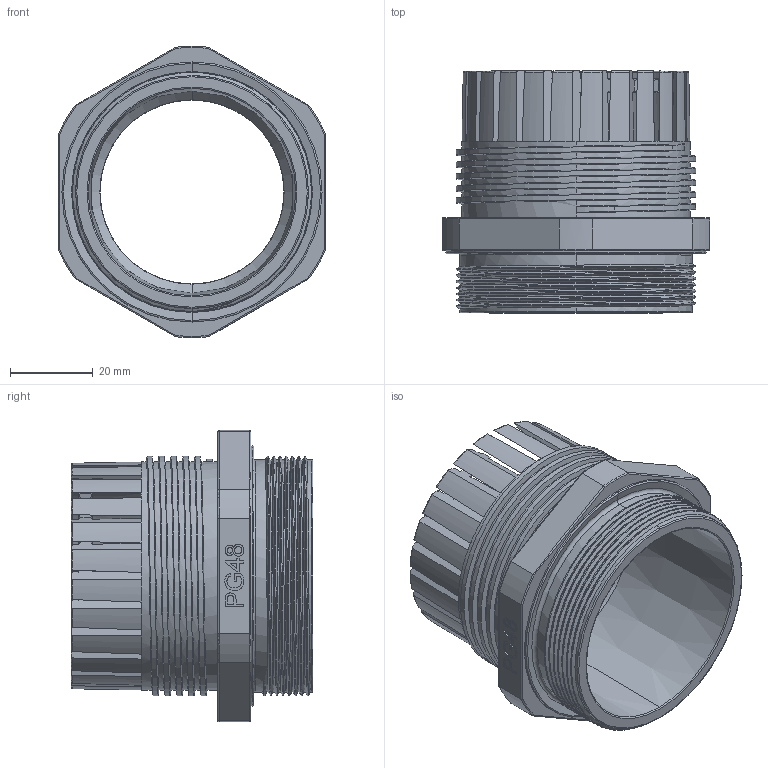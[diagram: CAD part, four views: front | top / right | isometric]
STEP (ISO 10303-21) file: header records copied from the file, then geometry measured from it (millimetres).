
FILE_DESCRIPTION (( 'STEP AP214' ), '1' );
FILE_NAME ('plc-pg-48-00.00.001 昢膼瘔 (PG48) #base (PG48)#.STEP', '2024-04-24T11:20:43', ( '' ), ( '' ), 'SwSTEP 2.0', 'SolidWorks 2021', '' );
FILE_SCHEMA (( 'AUTOMOTIVE_DESIGN' ));
Length unit declared in the file: millimetre
Products named in the file (1): plc-pg-48-00.00.001 昢膼瘔 (PG48) #base (PG48)#
Bounding box: 64.7 x 58.5 x 70.5 mm (x, y, z)
Volume: 38199.8 mm3; surface area: 28274.8 mm2
Topology: 1 solids, 1 shells, 481 faces, 1293 edges, 828 vertices
Faces by surface type: plane 180, cone 111, cylinder 76, torus 71, bspline 43
Entity records: 21858 total; most frequent: CARTESIAN_POINT 10135, ORIENTED_EDGE 2586, DIRECTION 1978, EDGE_CURVE 1293, VERTEX_POINT 828, AXIS2_PLACEMENT_3D 787, EDGE_LOOP 497, ADVANCED_FACE 481
